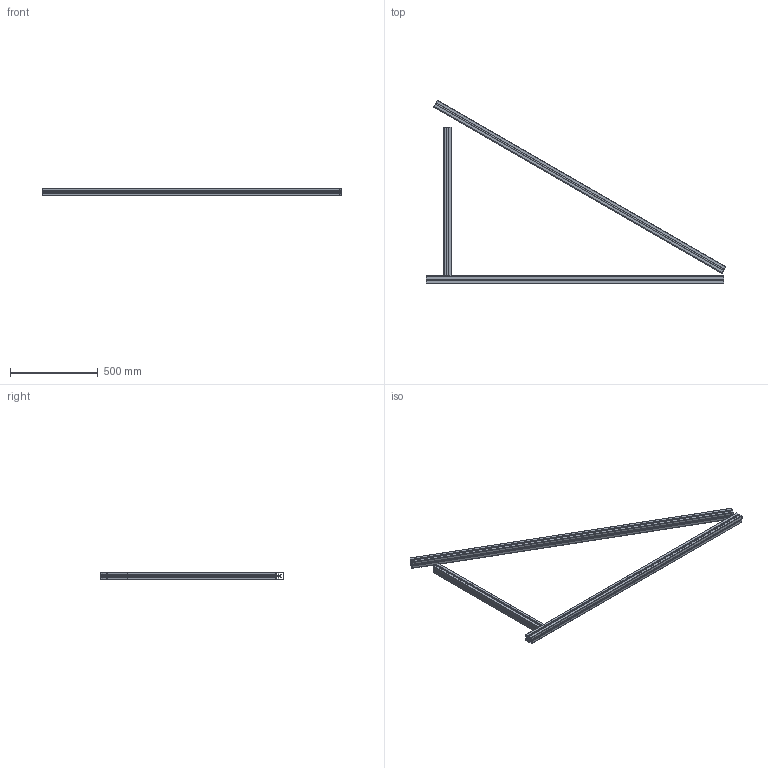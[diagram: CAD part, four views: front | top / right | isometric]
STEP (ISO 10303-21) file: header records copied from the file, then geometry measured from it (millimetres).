
FILE_DESCRIPTION (( 'STEP AP203' ), '1' );
FILE_NAME ('084.106.411.STEP', '2013-01-24T10:06:04', ( 'Alusic' ), ( 'Alusic' ), 'SwSTEP 2.0', 'SolidWorks 2011', '' );
FILE_SCHEMA (( 'CONFIG_CONTROL_DESIGN' ));
Length unit declared in the file: millimetre
Products named in the file (1): 084.106.411
Bounding box: 1712.5 x 1049 x 45 mm (x, y, z)
Volume: 1898993.6 mm3; surface area: 2729953.5 mm2
Topology: 3 solids, 3 shells, 443 faces, 1302 edges, 864 vertices
Faces by surface type: plane 241, cylinder 202
Entity records: 14962 total; most frequent: CARTESIAN_POINT 2749, ORIENTED_EDGE 2604, DIRECTION 2532, EDGE_CURVE 1302, VECTOR 902, LINE 902, VERTEX_POINT 864, AXIS2_PLACEMENT_3D 815
